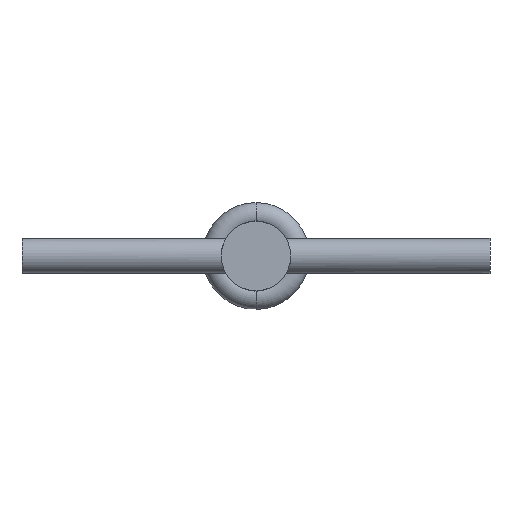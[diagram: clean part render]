
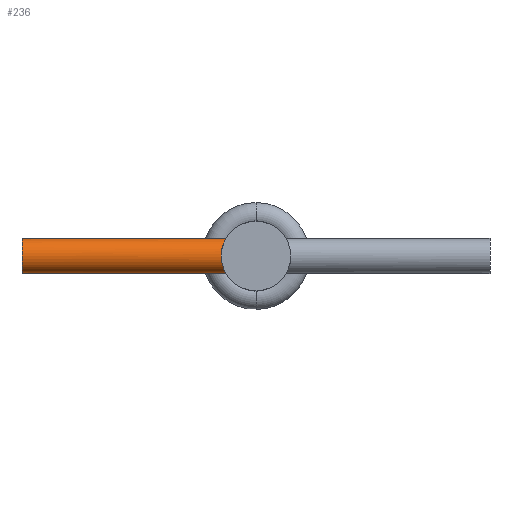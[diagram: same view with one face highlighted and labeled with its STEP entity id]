
A CAD part, left-side view. The second image highlights one B-rep face of the part: STEP entity #236.
In plain terms, the highlighted cylindrical face has radius 1.5 mm (diameter 3 mm), a partial arc.
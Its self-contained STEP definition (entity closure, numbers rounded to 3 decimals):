
#17 = CARTESIAN_POINT ( 'NONE',  ( 4.266, -20., 0. ) ) ;
#18 = CARTESIAN_POINT ( 'NONE',  ( 4.266, 2.562, 1.5 ) ) ;
#56 = ORIENTED_EDGE ( 'NONE', *, *, #560, .F. ) ;
#73 = CARTESIAN_POINT ( 'NONE',  ( 4.165, 2.562, 1.5 ) ) ;
#87 = EDGE_CURVE ( 'NONE', #103, #258, #558, .T. ) ;
#103 = VERTEX_POINT ( 'NONE', #163 ) ;
#105 = FACE_OUTER_BOUND ( 'NONE', #306, .T. ) ;
#123 = EDGE_CURVE ( 'NONE', #246, #258, #357, .T. ) ;
#163 = CARTESIAN_POINT ( 'NONE',  ( 4.266, 2.562, 1.5 ) ) ;
#175 = ORIENTED_EDGE ( 'NONE', *, *, #123, .F. ) ;
#177 = EDGE_CURVE ( 'NONE', #814, #246, #416, .T. ) ;
#180 = CARTESIAN_POINT ( 'NONE',  ( 2.845, 2.929, 0.491 ) ) ;
#185 = CARTESIAN_POINT ( 'NONE',  ( 2.959, 2.875, 0.761 ) ) ;
#188 = CARTESIAN_POINT ( 'NONE',  ( 3.07, 2.824, 0.925 ) ) ;
#195 = CARTESIAN_POINT ( 'NONE',  ( 3.342, 2.72, 1.197 ) ) ;
#219 = VECTOR ( 'NONE', #355, 1000. ) ;
#224 = AXIS2_PLACEMENT_3D ( 'NONE', #17, #467, #463 ) ;
#233 = DIRECTION ( 'NONE',  ( 0., 1., 0. ) ) ;
#236 = ADVANCED_FACE ( 'NONE', ( #105 ), #544, .T. ) ;
#246 = VERTEX_POINT ( 'NONE', #413 ) ;
#249 = CARTESIAN_POINT ( 'NONE',  ( 3.505, 2.666, 1.308 ) ) ;
#251 = B_SPLINE_CURVE_WITH_KNOTS ( 'NONE', 3,
 ( #18, #73, #576, #569, #567, #249, #195, #188, #185, #180, #761, #816, #385, #784, #818, #824, #253, #683, #634, #752, #630, #438 ),
 .UNSPECIFIED., .F., .F.,
 ( 4, 2, 2, 2, 2, 2, 2, 2, 2, 2, 4 ),
 ( 0., 0., 0.001, 0.001, 0.002, 0.002, 0.002, 0.003, 0.004, 0.004, 0.005 ),
 .UNSPECIFIED. ) ;
#253 = CARTESIAN_POINT ( 'NONE',  ( 3.071, 2.824, -0.927 ) ) ;
#258 = VERTEX_POINT ( 'NONE', #514 ) ;
#285 = AXIS2_PLACEMENT_3D ( 'NONE', #645, #233, #661 ) ;
#306 = EDGE_LOOP ( 'NONE', ( #422, #56, #500, #175 ) ) ;
#355 = DIRECTION ( 'NONE',  ( 0., 1., 0. ) ) ;
#357 = CIRCLE ( 'NONE', #285, 1.5 ) ;
#385 = CARTESIAN_POINT ( 'NONE',  ( 2.766, 2.968, 0.101 ) ) ;
#413 = CARTESIAN_POINT ( 'NONE',  ( 4.266, 20., -1.5 ) ) ;
#416 = LINE ( 'NONE', #516, #219 ) ;
#422 = ORIENTED_EDGE ( 'NONE', *, *, #177, .F. ) ;
#438 = CARTESIAN_POINT ( 'NONE',  ( 4.266, 2.562, -1.5 ) ) ;
#463 = DIRECTION ( 'NONE',  ( 0., 0., 1. ) ) ;
#467 = DIRECTION ( 'NONE',  ( 0., 1., 0. ) ) ;
#500 = ORIENTED_EDGE ( 'NONE', *, *, #87, .T. ) ;
#514 = CARTESIAN_POINT ( 'NONE',  ( 4.266, 20., 1.5 ) ) ;
#516 = CARTESIAN_POINT ( 'NONE',  ( 4.266, -20., -1.5 ) ) ;
#544 = CYLINDRICAL_SURFACE ( 'NONE', #224, 1.5 ) ;
#558 = LINE ( 'NONE', #593, #694 ) ;
#560 = EDGE_CURVE ( 'NONE', #103, #814, #251, .T. ) ;
#567 = CARTESIAN_POINT ( 'NONE',  ( 3.776, 2.607, 1.421 ) ) ;
#569 = CARTESIAN_POINT ( 'NONE',  ( 3.872, 2.59, 1.451 ) ) ;
#576 = CARTESIAN_POINT ( 'NONE',  ( 4.066, 2.568, 1.49 ) ) ;
#593 = CARTESIAN_POINT ( 'NONE',  ( 4.266, -20., 1.5 ) ) ;
#630 = CARTESIAN_POINT ( 'NONE',  ( 4.067, 2.562, -1.5 ) ) ;
#634 = CARTESIAN_POINT ( 'NONE',  ( 3.508, 2.666, -1.309 ) ) ;
#645 = CARTESIAN_POINT ( 'NONE',  ( 4.266, 20., 0. ) ) ;
#661 = DIRECTION ( 'NONE',  ( 0., 0., 1. ) ) ;
#683 = CARTESIAN_POINT ( 'NONE',  ( 3.344, 2.72, -1.198 ) ) ;
#694 = VECTOR ( 'NONE', #743, 1000. ) ;
#743 = DIRECTION ( 'NONE',  ( 0., 1., 0. ) ) ;
#752 = CARTESIAN_POINT ( 'NONE',  ( 3.867, 2.587, -1.459 ) ) ;
#761 = CARTESIAN_POINT ( 'NONE',  ( 2.816, 2.944, 0.394 ) ) ;
#784 = CARTESIAN_POINT ( 'NONE',  ( 2.766, 2.969, -0.199 ) ) ;
#785 = CARTESIAN_POINT ( 'NONE',  ( 4.266, 2.562, -1.5 ) ) ;
#814 = VERTEX_POINT ( 'NONE', #785 ) ;
#816 = CARTESIAN_POINT ( 'NONE',  ( 2.776, 2.963, 0.2 ) ) ;
#818 = CARTESIAN_POINT ( 'NONE',  ( 2.807, 2.947, -0.399 ) ) ;
#824 = CARTESIAN_POINT ( 'NONE',  ( 2.96, 2.875, -0.763 ) ) ;
